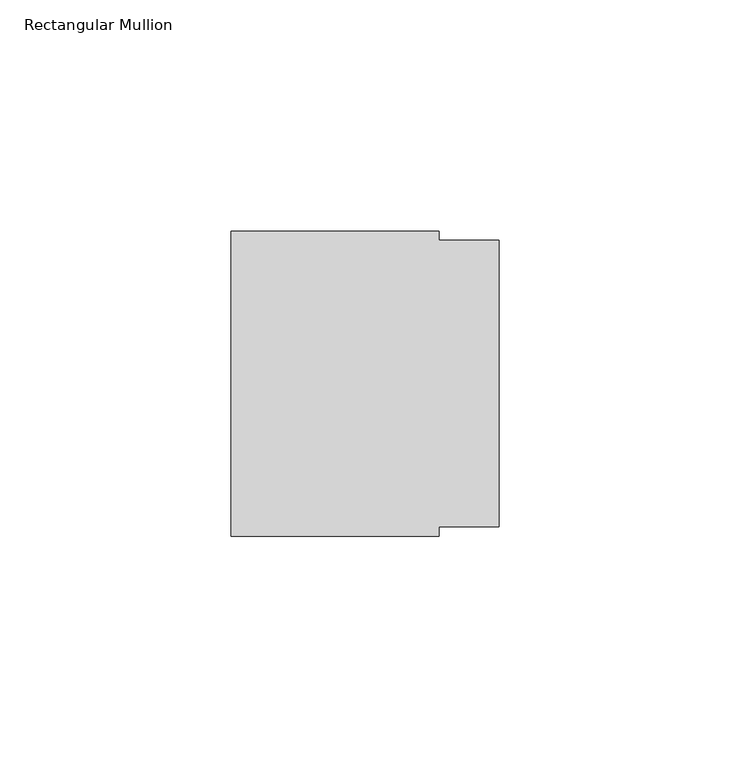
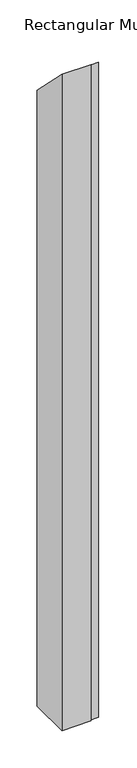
"""IFC4 building model written with IfcOpenShell, lengths in millimetres: member geometry, Rectangular Mullion : FLOOR_TRACK 85-KLS00-P80-RE58XC."""

from ifc_helpers import new_model, si_unit, origin, place, context, project, spatial, faceted_brep, source, transform, mapped, element, save


def rectangular_mullion_7c2227dd(model_context):
    return source(origin(), model_context, "Body", "Brep", [
        faceted_brep([(-13.0, 33.0, -1038.5), (-13.0, 31.0, -1038.5), (0.0, 31.0, -1038.5), (0.0, -31.0, -1038.5), (-13.0, -31.0, -1038.5), (-13.0, -33.0, -1038.5), (-58.0, -33.0, -1038.5), (-58.0, 33.0, -1038.5), (-58.0, 33.0, -33.0), (-13.0, 33.0, -33.0), (-58.0, -33.0, 33.0), (-13.0, -33.0, 33.0), (-13.0, -31.0, 31.0), (0.0, -31.0, 31.0), (0.0, 31.0, -31.0), (-13.0, 31.0, -31.0)], [[[0, 1, 2, 3, 4, 5, 6, 7]], [[8, 9, 0, 7]], [[10, 8, 7, 6]], [[11, 10, 6, 5]], [[12, 11, 5, 4]], [[13, 12, 4, 3]], [[14, 13, 3, 2]], [[15, 14, 2, 1]], [[9, 15, 1, 0]], [[9, 8, 10, 11, 12, 13, 14, 15]]]),
    ])


if __name__ == "__main__":
    model = new_model("IFC4")
    model_context = context("Model", 3, world=origin())
    ifc_project = project(units=[si_unit("LENGTHUNIT", "METRE", prefix="MILLI")], contexts=[model_context])
    site = spatial("IfcSite", under=ifc_project)
    building = spatial("IfcBuilding", under=site)
    placement = place(None, origin())
    rectangular_mullion_shape = rectangular_mullion_7c2227dd(model_context)
    element("IfcMember", 1, ObjectType="Rectangular Mullion : FLOOR_TRACK 85-KLS00-P80-RE58XC", at=placement, inside=building, context=model_context, shape_type="MappedRepresentation", body=[
        mapped(rectangular_mullion_shape, transform((0.0, 0.0, 0.0), x_axis=(1.0, 0.0, 0.0), y_axis=(0.0, 1.0, 0.0), z_axis=(0.0, 0.0, 1.0))),
    ])
    save(model, "model.ifc")
